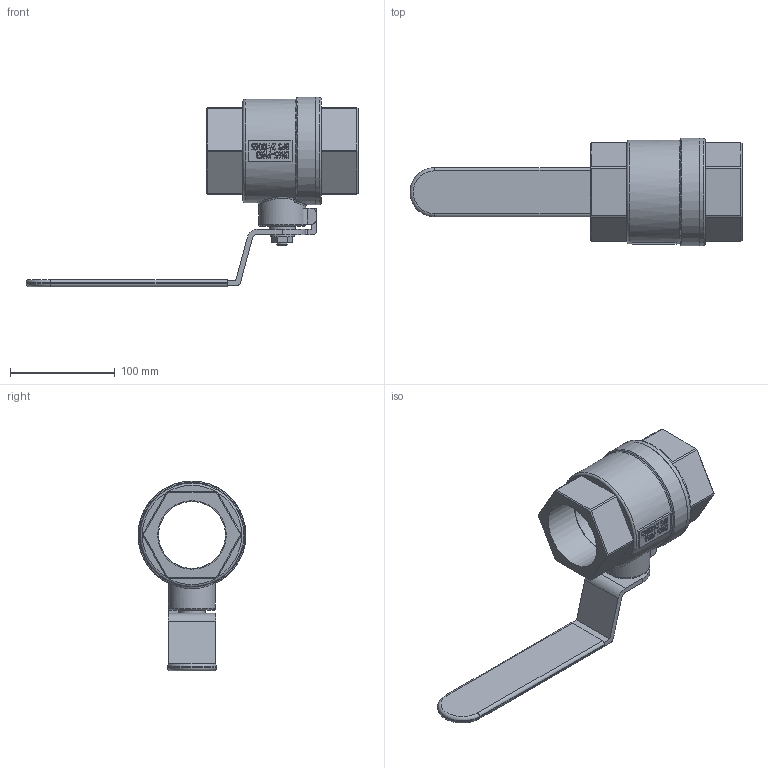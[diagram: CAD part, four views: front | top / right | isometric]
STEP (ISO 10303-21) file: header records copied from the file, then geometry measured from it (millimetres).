
FILE_DESCRIPTION( ( 'Unknown' ), '1' );
FILE_NAME( 'C:/Documents and Settings/Klaus/My Documents/Rootsi BPS 3D, Klaus/BPS 2410 ball valve, 2-pcs/STEP/BPS2410065 ball valve DN65.stp', 'Unknown', ( 'Unknown' ), ( 'Unknown' ), 'PSStep 10.1', 'Unknown', ' ' );
FILE_SCHEMA( ( 'AUTOMOTIVE_DESIGN { 1 0 10303 214 1 1 1 1 }' ) );
Length unit declared in the file: millimetre
Products named in the file (2): 1; 2
Bounding box: 317.5 x 103 x 181.5 mm (x, y, z)
Volume: 657558.5 mm3; surface area: 128030.1 mm2
Topology: 2 solids, 2 shells, 307 faces, 741 edges, 476 vertices
Faces by surface type: plane 209, extrusion 56, cylinder 26, bspline 8, torus 7, cone 1
Full cylindrical faces by diameter (mm): 10 x1, 23 x1, 25 x1, 45 x1, 64 x2, 65.505 x2, 99 x1, 103 x2
Entity records: 15297 total; most frequent: CARTESIAN_POINT 6353, ORIENTED_EDGE 1424, DIRECTION 1024, EDGE_CURVE 712, VERTEX_POINT 468, VECTOR 398, EDGE_LOOP 370, B_SPLINE_CURVE_WITH_KNOTS 358
